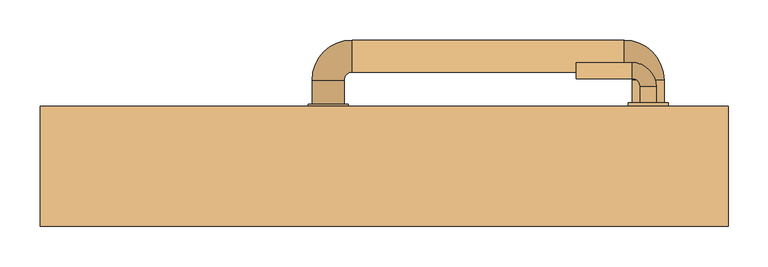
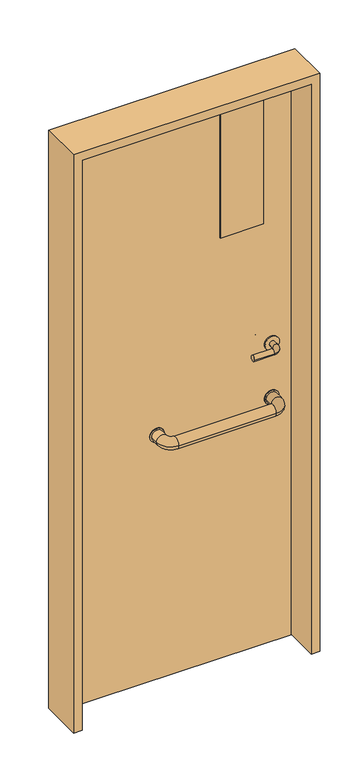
"""IFC4 building model written with IfcOpenShell, lengths in millimetres: door geometry, Porta banheiros : Porta banheiros."""

import ifcopenshell
import ifcopenshell.guid

model = None  # the IFC model being written
_history = None  # IfcOwnerHistory: only IFC2X3 demands one
_inside = {}  # id of a spatial element -> (the spatial element, [elements in it])
_under = {}  # id of a project, library or spatial element -> (it, [spatial elements below it])
_declared = {}  # id of a project -> (the project, [libraries it declares])
_typed = {}  # id of a type object -> (the type object, [elements of that type])
_made_of = {}  # id of a material, layer set ... -> (it, [elements and type objects made of it])


def new_model(schema):
    """Start an empty IFC model of exactly this schema.

    Asked for "IFC4X3", IfcOpenShell would pick the latest addendum, in which some entities
    have other attributes; the version numbers below select the first issue.
    IFC2X3 requires an IfcOwnerHistory on every rooted entity: one is made here for all.
    """
    global model, _history
    if schema == "IFC4X3":
        model = ifcopenshell.file(schema_version=(4, 3, 0, 0))
    else:
        model = ifcopenshell.file(schema=schema)
    _inside.clear()
    _under.clear()
    _declared.clear()
    _typed.clear()
    _made_of.clear()
    _history = None
    if model.schema == "IFC2X3":
        org = make("IfcOrganization", Name="unknown")
        user = make(
            "IfcPersonAndOrganization",
            ThePerson=make("IfcPerson", FamilyName="unknown"),
            TheOrganization=org,
        )
        app = make(
            "IfcApplication",
            ApplicationDeveloper=org,
            Version="unknown",
            ApplicationFullName="unknown",
            ApplicationIdentifier="unknown",
        )
        _history = make(
            "IfcOwnerHistory",
            OwningUser=user,
            OwningApplication=app,
            ChangeAction="ADDED",
            CreationDate=0,
        )
    return model


def make(cls, **values):
    """One entity of the class cls with the attributes given. An attribute that is None is left unset."""
    return model.create_entity(
        cls, **{name: value for name, value in values.items() if value is not None}
    )


def rooted(cls, **values):
    """An entity with a GlobalId (a new one), such as an element, a storey or a relation."""
    return make(cls, GlobalId=ifcopenshell.guid.new(), OwnerHistory=_history, **values)


def si_unit(unit_type, name, prefix=None):
    """IfcSIUnit, for example si_unit("LENGTHUNIT", "METRE", prefix="MILLI")."""
    return make("IfcSIUnit", UnitType=unit_type, Prefix=prefix, Name=name)


def assignment(units):
    """IfcUnitAssignment: the units of a project."""
    return None if units is None else make("IfcUnitAssignment", Units=units)


def point(xyz):
    """IfcCartesianPoint."""
    return None if xyz is None else make("IfcCartesianPoint", Coordinates=xyz)


def direction(xyz):
    """IfcDirection."""
    return None if xyz is None else make("IfcDirection", DirectionRatios=xyz)


def frame(location, z_axis=None, x_axis=None):
    """IfcAxis2Placement3D, a coordinate frame: its origin and axes. An axis left out is left unset."""
    return make(
        "IfcAxis2Placement3D",
        Location=point(location),
        Axis=direction(z_axis),
        RefDirection=direction(x_axis),
    )


def frame_2d(location, x_axis=None):
    """IfcAxis2Placement2D, a coordinate frame in the plane: its origin and x axis."""
    return make(
        "IfcAxis2Placement2D", Location=point(location), RefDirection=direction(x_axis)
    )


def origin():
    """The frame at (0, 0, 0) with its axes left unset."""
    return frame((0.0, 0.0, 0.0))


def origin_with_axes():
    """The frame at (0, 0, 0) with the z axis (0, 0, 1) and the x axis (1, 0, 0) written out."""
    return frame((0.0, 0.0, 0.0), z_axis=(0.0, 0.0, 1.0), x_axis=(1.0, 0.0, 0.0))


def place(relative_to, where):
    """IfcLocalPlacement: puts the frame where relative to a parent placement (None: the world)."""
    return make(
        "IfcLocalPlacement", PlacementRelTo=relative_to, RelativePlacement=where
    )


def context(
    kind, dimensions, precision=None, world=None, true_north=None, identifier=None
):
    """IfcGeometricRepresentationContext, for example the 3D "Model" context."""
    return make(
        "IfcGeometricRepresentationContext",
        ContextIdentifier=identifier,
        ContextType=kind,
        CoordinateSpaceDimension=dimensions,
        Precision=precision,
        WorldCoordinateSystem=world,
        TrueNorth=true_north,
    )


def project(units=None, contexts=None):
    """IfcProject with its units and contexts."""
    return rooted(
        "IfcProject",
        Name="project",
        RepresentationContexts=contexts,
        UnitsInContext=assignment(units),
    )


def spatial(cls, under=None, at=None, **own):
    """A site, building, storey or space (cls), placed at a placement, below another one or the project."""
    s = rooted(cls, ObjectPlacement=at, **own)
    if under is not None:
        _under.setdefault(under.id(), (under, []))[1].append(s)
    return s


def polyline(points):
    """IfcPolyline through the points."""
    return make("IfcPolyline", Points=[point(p) for p in points])


def circle_curve(where, radius):
    """IfcCircle in the frame where."""
    return make("IfcCircle", Position=where, Radius=radius)


def ellipse_curve(where, semi_axis1, semi_axis2):
    """IfcEllipse in the frame where."""
    return make(
        "IfcEllipse", Position=where, SemiAxis1=semi_axis1, SemiAxis2=semi_axis2
    )


def trimmed(basis, trim1, trim2, sense, master):
    """IfcTrimmedCurve: the piece of a basis curve between two trims."""
    return make(
        "IfcTrimmedCurve",
        BasisCurve=basis,
        Trim1=trim1,
        Trim2=trim2,
        SenseAgreement=sense,
        MasterRepresentation=master,
    )


def segment(curve, same_sense, transition):
    """IfcCompositeCurveSegment."""
    return make(
        "IfcCompositeCurveSegment",
        Transition=transition,
        SameSense=same_sense,
        ParentCurve=curve,
    )


def composite_curve(segments, self_intersect=None):
    """IfcCompositeCurve: segments joined end to end."""
    return make("IfcCompositeCurve", Segments=segments, SelfIntersect=self_intersect)


def outline(outer, holes=None, kind="AREA"):
    """IfcArbitraryClosedProfileDef: a profile drawn as a closed curve; with holes, ...WithVoids."""
    if holes is None:
        return make("IfcArbitraryClosedProfileDef", ProfileType=kind, OuterCurve=outer)
    return make(
        "IfcArbitraryProfileDefWithVoids",
        ProfileType=kind,
        OuterCurve=outer,
        InnerCurves=holes,
    )


def extrude(swept, where, along, depth):
    """IfcExtrudedAreaSolid: the profile swept, set in the frame where, extruded along a direction by depth."""
    return make(
        "IfcExtrudedAreaSolid",
        SweptArea=swept,
        Position=where,
        ExtrudedDirection=direction(along),
        Depth=depth,
    )


def faces_of(points, faces, orient=None, outer=None):
    """IfcFace entities. A face is a list of loops; a loop is a list of indices into points, from 0.

    orient and outer hold one flag for each loop. By default every Orientation is true, the
    first loop of a face is its IfcFaceOuterBound and the others are IfcFaceBound.
    """
    made = []
    for i, loops in enumerate(faces):
        bounds = []
        for j, loop in enumerate(loops):
            is_outer = j == 0 if outer is None else outer[i][j]
            bounds.append(
                make(
                    "IfcFaceOuterBound" if is_outer else "IfcFaceBound",
                    Bound=make("IfcPolyLoop", Polygon=[points[k] for k in loop]),
                    Orientation=True if orient is None else orient[i][j],
                )
            )
        made.append(make("IfcFace", Bounds=bounds))
    return made


def faceted_brep(points, faces, orient=None, outer=None, voids=None):
    """IfcFacetedBrep: a solid bounded by flat faces; with voids (closed shells), ...WithVoids."""
    shared = [point(p) for p in points]
    hull = make("IfcClosedShell", CfsFaces=faces_of(shared, faces, orient, outer))
    if voids is None:
        return make("IfcFacetedBrep", Outer=hull)
    return make(
        "IfcFacetedBrepWithVoids",
        Outer=hull,
        Voids=[
            make(cls, CfsFaces=faces_of(shared, fs, o, b)) for cls, fs, o, b in voids
        ],
    )


def shape(context_of_items, identifier, shape_type, items):
    """IfcShapeRepresentation: the items that make up one representation, for example the "Body"."""
    return make(
        "IfcShapeRepresentation",
        ContextOfItems=context_of_items,
        RepresentationIdentifier=identifier,
        RepresentationType=shape_type,
        Items=items,
    )


def source(mapping_origin, context_of_items, identifier, shape_type, items):
    """IfcRepresentationMap: a shape defined once, which mapped items show again and again."""
    return make(
        "IfcRepresentationMap",
        MappingOrigin=mapping_origin,
        MappedRepresentation=shape(context_of_items, identifier, shape_type, items),
    )


def transform(
    local_origin,
    x_axis=None,
    y_axis=None,
    z_axis=None,
    scale=None,
    scale2=None,
    scale3=None,
    uniform=True,
):
    """IfcCartesianTransformationOperator3D, or its non-uniform kind. x_axis, y_axis, z_axis: its Axis1, 2, 3."""
    if uniform:
        return make(
            "IfcCartesianTransformationOperator3D",
            Axis1=direction(x_axis),
            Axis2=direction(y_axis),
            LocalOrigin=point(local_origin),
            Scale=scale,
            Axis3=direction(z_axis),
        )
    return make(
        "IfcCartesianTransformationOperator3DnonUniform",
        Axis1=direction(x_axis),
        Axis2=direction(y_axis),
        LocalOrigin=point(local_origin),
        Scale=scale,
        Axis3=direction(z_axis),
        Scale2=scale2,
        Scale3=scale3,
    )


def mapped(mapping_source, mapping_target):
    """IfcMappedItem: shows the shape of a source again, moved by a transform."""
    return make(
        "IfcMappedItem", MappingSource=mapping_source, MappingTarget=mapping_target
    )


def made_of(thing, what):
    """Note that an element or type object is made of a material, layer set ...; save() writes the relation."""
    if what is not None:
        _made_of.setdefault(what.id(), (what, []))[1].append(thing)
    return thing


def element(
    cls,
    number,
    at=None,
    inside=None,
    cuts=None,
    type_object=None,
    material=None,
    context=None,
    identifier="Body",
    shape_type=None,
    held_by="IfcProductDefinitionShape",
    body=None,
    shapes=None,
    **own,
):
    """One element of the class cls, such as IfcWall. Its Tag is "e" and its number.

    at: its placement. inside: the storey or other place that contains it. cuts: it is an
    opening in that element (IfcRelVoidsElement). A single representation is given by context,
    identifier, shape_type and body (its items); several are given by shapes. held_by: the class
    of the entity that holds the representations. save() writes the other relations.
    """
    e = rooted(cls, Tag="e%d" % number, ObjectPlacement=at, **own)
    if body is not None:
        shapes = [shape(context, identifier, shape_type, body)]
    if shapes is not None:
        e.Representation = make(held_by, Representations=shapes)
    if inside is not None:
        _inside.setdefault(inside.id(), (inside, []))[1].append(e)
    if cuts is not None:
        rooted(
            "IfcRelVoidsElement", RelatingBuildingElement=cuts, RelatedOpeningElement=e
        )
    if type_object is not None:
        _typed.setdefault(type_object.id(), (type_object, []))[1].append(e)
    return made_of(e, material)


def aggregate(whole, parts):
    """IfcRelAggregates: a whole, such as a stair, and the parts it consists of."""
    return rooted("IfcRelAggregates", RelatingObject=whole, RelatedObjects=parts)


def save(model, path):
    """Write the relations noted so far, then the file.

    IfcRelAggregates (storeys below a building ...), IfcRelContainedInSpatialStructure (elements
    in a storey), IfcRelDefinesByType, IfcRelAssociatesMaterial and IfcRelDeclares: one each for
    every whole, place, type object, material and project.
    """
    for whole, parts in _under.values():
        aggregate(whole, parts)
    for where, things in _inside.values():
        rooted(
            "IfcRelContainedInSpatialStructure",
            RelatedElements=things,
            RelatingStructure=where,
        )
    for kind, things in _typed.values():
        rooted("IfcRelDefinesByType", RelatedObjects=things, RelatingType=kind)
    for what, things in _made_of.values():
        rooted("IfcRelAssociatesMaterial", RelatedObjects=things, RelatingMaterial=what)
    for by, libraries in _declared.values():
        rooted("IfcRelDeclares", RelatingContext=by, RelatedDefinitions=libraries)
    model.write(path)


def plane_surface(at):
    """IfcPlane: the flat surface through the origin of the frame at, square to its z axis."""
    return make("IfcPlane", Position=at)


def cylinder_surface(at, radius):
    """IfcCylindricalSurface: all points at the distance radius from the z axis of the frame at."""
    return make("IfcCylindricalSurface", Position=at, Radius=radius)


def revolved_surface(curve, axis_point, axis_direction):
    """IfcSurfaceOfRevolution: the curve turned about the line through axis_point along axis_direction."""
    return make(
        "IfcSurfaceOfRevolution",
        SweptCurve=make("IfcArbitraryOpenProfileDef", ProfileType="CURVE", Curve=curve),
        AxisPosition=make("IfcAxis1Placement", Location=point(axis_point), Axis=direction(axis_direction)),
    )


def advanced_brep(points, edges, surfaces, faces):
    """IfcAdvancedBrep: a solid bounded by faces that lie on surfaces and meet in shared edges.

    An edge is (start, end): straight between two places in points (the first is 0);
    or (start, end, curve); or (start, end, curve, False) where it runs against its curve.
    A face is (place in surfaces, loops), or (place, loops, False) where it looks against
    its surface's normal. A loop lists edges by number (the first is 1), with a minus sign
    where the edge is run from its end to its start. The first loop is the outer one.
    """
    corners = [point(p) for p in points]
    vertices = [make("IfcVertexPoint", VertexGeometry=c) for c in corners]
    made = []
    for start, end, *more in edges:
        made.append(
            make(
                "IfcEdgeCurve",
                EdgeStart=vertices[start],
                EdgeEnd=vertices[end],
                EdgeGeometry=more[0] if more else make("IfcPolyline", Points=[corners[start], corners[end]]),
                SameSense=more[1] if len(more) > 1 else True,
            )
        )
    hull = []
    for where, loops, *sense in faces:
        bounds = []
        for j, loop in enumerate(loops):
            ring = [make("IfcOrientedEdge", EdgeElement=made[abs(k) - 1], Orientation=k > 0) for k in loop]
            bounds.append(
                make(
                    "IfcFaceOuterBound" if j == 0 else "IfcFaceBound",
                    Bound=make("IfcEdgeLoop", EdgeList=ring),
                    Orientation=True,
                )
            )
        hull.append(make("IfcAdvancedFace", Bounds=bounds, FaceSurface=surfaces[where], SameSense=sense[0] if sense else True))
    return make("IfcAdvancedBrep", Outer=make("IfcClosedShell", CfsFaces=hull))


def door_062d9f42(model_context):
    return source(origin(), model_context, "Body", "SolidModel", [
        extrude(outline(composite_curve([segment(trimmed(circle_curve(frame_2d((900.0, -70.0)), 25.0), [point((900.0, -95.0))], [point((900.0, -45.0))], False, "CARTESIAN"), True, "CONTINUOUS"), segment(trimmed(circle_curve(frame_2d((900.0, -70.0)), 25.0), [point((900.0, -45.0))], [point((900.0, -95.0))], False, "CARTESIAN"), True, "CONTINUOUS")], self_intersect=False)), frame((0.0, 75.0, 0.0), z_axis=(0.0, 1.0, 0.0), x_axis=(0.0, 0.0, 1.0)), (0.0, 0.0, 1.0), 3.0),
        extrude(outline(composite_curve([segment(trimmed(circle_curve(frame_2d((900.0, 330.0)), 25.0), [point((900.0, 305.0))], [point((900.0, 355.0))], False, "CARTESIAN"), True, "CONTINUOUS"), segment(trimmed(circle_curve(frame_2d((900.0, 330.0)), 25.0), [point((900.0, 355.0))], [point((900.0, 305.0))], False, "CARTESIAN"), True, "CONTINUOUS")], self_intersect=False)), frame((0.0, 75.0, 0.0), z_axis=(0.0, 1.0, 0.0), x_axis=(0.0, 0.0, 1.0)), (0.0, 0.0, 1.0), 3.0),
        advanced_brep(
        [(310.0, 78.0, 900.0), (350.0, 78.0, 900.0), (350.0, 108.0, 900.0), (310.0, 108.0, 900.0), (300.0, 158.0, 900.0), (300.0, 118.0, 900.0), (-40.0, 158.0, 900.0), (-40.0, 118.0, 900.0), (-90.0, 108.0, 900.0), (-50.0, 108.0, 900.0), (-50.0, 78.0, 900.0), (-90.0, 78.0, 900.0)],
        [
            (0, 1, circle_curve(frame((330.0, 78.0, 900.0), z_axis=(0.0, -1.0, 0.0), x_axis=(1.0, 0.0, 0.0)), 20.0)),
            (1, 0, circle_curve(frame((330.0, 78.0, 900.0), z_axis=(0.0, -1.0, 0.0), x_axis=(1.0, 0.0, 0.0)), 20.0)),
            (1, 2),
            (2, 3, circle_curve(frame((330.0, 108.0, 900.0), z_axis=(0.0, -1.0, 0.0), x_axis=(1.0, 0.0, 0.0)), 20.0)),
            (3, 0),
            (3, 2, circle_curve(frame((330.0, 108.0, 900.0), z_axis=(0.0, -1.0, 0.0), x_axis=(1.0, 0.0, 0.0)), 20.0)),
            (4, 5, circle_curve(frame((300.0, 138.0, 900.0), z_axis=(1.0, 0.0, 0.0), x_axis=(0.0, 1.0, 0.0)), 20.0)),
            (5, 3, circle_curve(frame((300.0, 108.0, 900.0), z_axis=(0.0, 0.0, -1.0), x_axis=(1.0, 0.0, 0.0)), 10.0)),
            (2, 4, circle_curve(frame((300.0, 108.0, 900.0), z_axis=(0.0, 0.0, 1.0), x_axis=(1.0, 0.0, 0.0)), 50.0)),
            (5, 4, circle_curve(frame((300.0, 138.0, 900.0), z_axis=(1.0, 0.0, 0.0), x_axis=(0.0, 1.0, 0.0)), 20.0)),
            (4, 6),
            (6, 7, circle_curve(frame((-40.0, 138.0, 900.0), z_axis=(1.0, 0.0, 0.0), x_axis=(0.0, 1.0, 0.0)), 20.0)),
            (7, 5),
            (7, 6, circle_curve(frame((-40.0, 138.0, 900.0), z_axis=(1.0, 0.0, 0.0), x_axis=(0.0, 1.0, 0.0)), 20.0)),
            (8, 9, circle_curve(frame((-70.0, 108.0, 900.0), z_axis=(0.0, 1.0, 0.0), x_axis=(-1.0, 0.0, 0.0)), 20.0)),
            (9, 7, circle_curve(frame((-40.0, 108.0, 900.0), z_axis=(0.0, 0.0, -1.0), x_axis=(0.0, 1.0, 0.0)), 10.0)),
            (6, 8, circle_curve(frame((-40.0, 108.0, 900.0), z_axis=(0.0, 0.0, 1.0), x_axis=(0.0, 1.0, 0.0)), 50.0)),
            (9, 8, circle_curve(frame((-70.0, 108.0, 900.0), z_axis=(0.0, 1.0, 0.0), x_axis=(-1.0, 0.0, 0.0)), 20.0)),
            (10, 11, circle_curve(frame((-70.0, 78.0, 900.0), z_axis=(0.0, -1.0, 0.0), x_axis=(-1.0, 0.0, 0.0)), 20.0)),
            (11, 10, circle_curve(frame((-70.0, 78.0, 900.0), z_axis=(0.0, -1.0, 0.0), x_axis=(-1.0, 0.0, 0.0)), 20.0)),
            (8, 11),
            (10, 9),
        ],
        [
            plane_surface(frame((330.0, 78.0, 900.0), z_axis=(0.0, -1.0, 0.0), x_axis=(0.0, 0.0, 1.0))),
            cylinder_surface(frame((330.0, 78.0, 900.0), z_axis=(0.0, -1.0, 0.0), x_axis=(1.0, 0.0, 0.0)), 20.0),
            revolved_surface(trimmed(ellipse_curve(frame((330.0, 108.0, 900.0), z_axis=(0.0, 1.0, 0.0), x_axis=(1.0, 0.0, 0.0)), 20.0, 20.0), [point((310.0, 108.0, 900.0))], [point((350.0, 108.0, 900.0))], True, "CARTESIAN"), (300.0, 108.0, 900.0), (0.0, 0.0, -1.0)),
            revolved_surface(trimmed(ellipse_curve(frame((330.0, 108.0, 900.0), z_axis=(0.0, 1.0, 0.0), x_axis=(1.0, 0.0, 0.0)), 20.0, 20.0), [point((350.0, 108.0, 900.0))], [point((310.0, 108.0, 900.0))], True, "CARTESIAN"), (300.0, 108.0, 900.0), (0.0, 0.0, -1.0)),
            cylinder_surface(frame((300.0, 138.0, 900.0), z_axis=(1.0, 0.0, 0.0), x_axis=(0.0, 1.0, 0.0)), 20.0),
            revolved_surface(trimmed(ellipse_curve(frame((-40.0, 138.0, 900.0), z_axis=(-1.0, 0.0, 0.0), x_axis=(0.0, 1.0, 0.0)), 20.0, 20.0), [point((-40.0, 118.0, 900.0))], [point((-40.0, 158.0, 900.0))], True, "CARTESIAN"), (-40.0, 108.0, 900.0), (0.0, 0.0, -1.0)),
            revolved_surface(trimmed(ellipse_curve(frame((-40.0, 138.0, 900.0), z_axis=(-1.0, 0.0, 0.0), x_axis=(0.0, 1.0, 0.0)), 20.0, 20.0), [point((-40.0, 158.0, 900.0))], [point((-40.0, 118.0, 900.0))], True, "CARTESIAN"), (-40.0, 108.0, 900.0), (0.0, 0.0, -1.0)),
            plane_surface(frame((-70.0, 78.0, 900.0), z_axis=(0.0, -1.0, 0.0), x_axis=(0.0, 0.0, 1.0))),
            cylinder_surface(frame((-70.0, 108.0, 900.0), z_axis=(0.0, 1.0, 0.0), x_axis=(-1.0, 0.0, 0.0)), 20.0),
        ],
        [
            (0, [[1, 2]]),
            (1, [[3, 4, 5, -2]]),
            (1, [[-5, 6, -3, -1]]),
            (2, [[7, 8, -4, 9]]),
            (3, [[10, -9, -6, -8]]),
            (4, [[11, 12, 13, -7]]),
            (4, [[-13, 14, -11, -10]]),
            (5, [[15, 16, -12, 17]]),
            (6, [[18, -17, -14, -16]]),
            (7, [[19, 20]]),
            (8, [[21, -19, 22, -15]]),
            (8, [[-22, -20, -21, -18]]),
        ],
    ),
        extrude(outline(composite_curve([segment(trimmed(circle_curve(frame_2d((900.0, -70.0)), 25.0), [point((900.0, -95.0))], [point((900.0, -45.0))], False, "CARTESIAN"), True, "CONTINUOUS"), segment(trimmed(circle_curve(frame_2d((900.0, -70.0)), 25.0), [point((900.0, -45.0))], [point((900.0, -95.0))], False, "CARTESIAN"), True, "CONTINUOUS")], self_intersect=False)), frame((0.0, 42.0, 0.0), z_axis=(0.0, 1.0, 0.0), x_axis=(0.0, 0.0, 1.0)), (0.0, 0.0, 1.0), 3.0),
        extrude(outline(composite_curve([segment(trimmed(circle_curve(frame_2d((900.0, 330.0)), 25.0), [point((900.0, 305.0))], [point((900.0, 355.0))], False, "CARTESIAN"), True, "CONTINUOUS"), segment(trimmed(circle_curve(frame_2d((900.0, 330.0)), 25.0), [point((900.0, 355.0))], [point((900.0, 305.0))], False, "CARTESIAN"), True, "CONTINUOUS")], self_intersect=False)), frame((0.0, 42.0, 0.0), z_axis=(0.0, 1.0, 0.0), x_axis=(0.0, 0.0, 1.0)), (0.0, 0.0, 1.0), 3.0),
        advanced_brep(
        [(310.0, 42.0, 900.0), (350.0, 42.0, 900.0), (310.0, 12.0, 900.0), (350.0, 12.0, 900.0), (300.0, -38.0, 900.0), (300.0, 2.0, 900.0), (-40.0, 2.0, 900.0), (-40.0, -38.0, 900.0), (-90.0, 12.0, 900.0), (-50.0, 12.0, 900.0), (-50.0, 42.0, 900.0), (-90.0, 42.0, 900.0)],
        [
            (0, 1, circle_curve(frame((330.0, 42.0, 900.0), z_axis=(0.0, 1.0, 0.0), x_axis=(1.0, 0.0, 0.0)), 20.0)),
            (1, 0, circle_curve(frame((330.0, 42.0, 900.0), z_axis=(0.0, 1.0, 0.0), x_axis=(1.0, 0.0, 0.0)), 20.0)),
            (0, 2),
            (2, 3, circle_curve(frame((330.0, 12.0, 900.0), z_axis=(0.0, 1.0, 0.0), x_axis=(1.0, 0.0, 0.0)), 20.0)),
            (3, 1),
            (3, 2, circle_curve(frame((330.0, 12.0, 900.0), z_axis=(0.0, 1.0, 0.0), x_axis=(1.0, 0.0, 0.0)), 20.0)),
            (4, 3, circle_curve(frame((300.0, 12.0, 900.0), z_axis=(0.0, 0.0, 1.0), x_axis=(1.0, 0.0, 0.0)), 50.0)),
            (2, 5, circle_curve(frame((300.0, 12.0, 900.0), z_axis=(0.0, 0.0, -1.0), x_axis=(1.0, 0.0, 0.0)), 10.0)),
            (5, 4, circle_curve(frame((300.0, -18.0, 900.0), z_axis=(1.0, 0.0, 0.0), x_axis=(0.0, -1.0, 0.0)), 20.0)),
            (4, 5, circle_curve(frame((300.0, -18.0, 900.0), z_axis=(1.0, 0.0, 0.0), x_axis=(0.0, -1.0, 0.0)), 20.0)),
            (5, 6),
            (6, 7, circle_curve(frame((-40.0, -18.0, 900.0), z_axis=(1.0, 0.0, 0.0), x_axis=(0.0, -1.0, 0.0)), 20.0)),
            (7, 4),
            (7, 6, circle_curve(frame((-40.0, -18.0, 900.0), z_axis=(1.0, 0.0, 0.0), x_axis=(0.0, -1.0, 0.0)), 20.0)),
            (8, 7, circle_curve(frame((-40.0, 12.0, 900.0), z_axis=(0.0, 0.0, 1.0), x_axis=(0.0, -1.0, 0.0)), 50.0)),
            (6, 9, circle_curve(frame((-40.0, 12.0, 900.0), z_axis=(0.0, 0.0, -1.0), x_axis=(0.0, -1.0, 0.0)), 10.0)),
            (9, 8, circle_curve(frame((-70.0, 12.0, 900.0), z_axis=(0.0, -1.0, 0.0), x_axis=(-1.0, 0.0, 0.0)), 20.0)),
            (8, 9, circle_curve(frame((-70.0, 12.0, 900.0), z_axis=(0.0, -1.0, 0.0), x_axis=(-1.0, 0.0, 0.0)), 20.0)),
            (10, 11, circle_curve(frame((-70.0, 42.0, 900.0), z_axis=(0.0, 1.0, 0.0), x_axis=(-1.0, 0.0, 0.0)), 20.0)),
            (11, 10, circle_curve(frame((-70.0, 42.0, 900.0), z_axis=(0.0, 1.0, 0.0), x_axis=(-1.0, 0.0, 0.0)), 20.0)),
            (9, 10),
            (11, 8),
        ],
        [
            plane_surface(frame((330.0, 42.0, 900.0), z_axis=(0.0, 1.0, 0.0), x_axis=(0.0, 0.0, 1.0))),
            cylinder_surface(frame((330.0, 42.0, 900.0), z_axis=(0.0, 1.0, 0.0), x_axis=(1.0, 0.0, 0.0)), 20.0),
            revolved_surface(trimmed(ellipse_curve(frame((330.0, 12.0, 900.0), z_axis=(0.0, 1.0, 0.0), x_axis=(1.0, 0.0, 0.0)), 20.0, 20.0), [point((310.0, 12.0, 900.0))], [point((350.0, 12.0, 900.0))], True, "CARTESIAN"), (300.0, 12.0, 900.0), (0.0, 0.0, -1.0)),
            revolved_surface(trimmed(ellipse_curve(frame((330.0, 12.0, 900.0), z_axis=(0.0, 1.0, 0.0), x_axis=(1.0, 0.0, 0.0)), 20.0, 20.0), [point((350.0, 12.0, 900.0))], [point((310.0, 12.0, 900.0))], True, "CARTESIAN"), (300.0, 12.0, 900.0), (0.0, 0.0, -1.0)),
            cylinder_surface(frame((300.0, -18.0, 900.0), z_axis=(1.0, 0.0, 0.0), x_axis=(0.0, -1.0, 0.0)), 20.0),
            revolved_surface(trimmed(ellipse_curve(frame((-40.0, -18.0, 900.0), z_axis=(1.0, 0.0, 0.0), x_axis=(0.0, -1.0, 0.0)), 20.0, 20.0), [point((-40.0, 2.0, 900.0))], [point((-40.0, -38.0, 900.0))], True, "CARTESIAN"), (-40.0, 12.0, 900.0), (0.0, 0.0, -1.0)),
            revolved_surface(trimmed(ellipse_curve(frame((-40.0, -18.0, 900.0), z_axis=(1.0, 0.0, 0.0), x_axis=(0.0, -1.0, 0.0)), 20.0, 20.0), [point((-40.0, -38.0, 900.0))], [point((-40.0, 2.0, 900.0))], True, "CARTESIAN"), (-40.0, 12.0, 900.0), (0.0, 0.0, -1.0)),
            plane_surface(frame((-70.0, 42.0, 900.0), z_axis=(0.0, 1.0, 0.0), x_axis=(0.0, 0.0, 1.0))),
            cylinder_surface(frame((-70.0, 12.0, 900.0), z_axis=(0.0, -1.0, 0.0), x_axis=(-1.0, 0.0, 0.0)), 20.0),
        ],
        [
            (0, [[1, 2]]),
            (1, [[-1, 3, 4, 5]]),
            (1, [[-2, -5, 6, -3]]),
            (2, [[7, -4, 8, 9]]),
            (3, [[-8, -6, -7, 10]]),
            (4, [[-9, 11, 12, 13]]),
            (4, [[-10, -13, 14, -11]]),
            (5, [[15, -12, 16, 17]]),
            (6, [[-16, -14, -15, 18]]),
            (7, [[19, 20]]),
            (8, [[-17, 21, -20, 22]]),
            (8, [[-18, -22, -19, -21]]),
        ],
    ),
        extrude(outline(composite_curve([segment(trimmed(circle_curve(frame_2d((1100.0, 330.0)), 25.0), [point((1100.0, 305.0))], [point((1100.0, 355.0))], False, "CARTESIAN"), True, "CONTINUOUS"), segment(trimmed(circle_curve(frame_2d((1100.0, 330.0)), 25.0), [point((1100.0, 355.0))], [point((1100.0, 305.0))], False, "CARTESIAN"), True, "CONTINUOUS")], self_intersect=False)), frame((0.0, 75.0, 0.0), z_axis=(0.0, 1.0, 0.0), x_axis=(0.0, 0.0, 1.0)), (0.0, 0.0, 1.0), 5.0),
        advanced_brep(
        [(320.0, 80.0, 1100.0), (340.0, 80.0, 1100.0), (340.0, 100.0, 1100.0), (320.0, 100.0, 1100.0), (310.0, 130.0, 1100.0), (310.0, 110.0, 1100.0), (240.0, 110.0, 1100.0), (240.0, 130.0, 1100.0)],
        [
            (0, 1, circle_curve(frame((330.0, 80.0, 1100.0), z_axis=(0.0, -1.0, 0.0), x_axis=(1.0, 0.0, 0.0)), 10.0)),
            (1, 0, circle_curve(frame((330.0, 80.0, 1100.0), z_axis=(0.0, -1.0, 0.0), x_axis=(1.0, 0.0, 0.0)), 10.0)),
            (1, 2),
            (2, 3, circle_curve(frame((330.0, 100.0, 1100.0), z_axis=(0.0, -1.0, 0.0), x_axis=(1.0, 0.0, 0.0)), 10.0)),
            (3, 0),
            (3, 2, circle_curve(frame((330.0, 100.0, 1100.0), z_axis=(0.0, -1.0, 0.0), x_axis=(1.0, 0.0, 0.0)), 10.0)),
            (4, 5, circle_curve(frame((310.0, 120.0, 1100.0), z_axis=(1.0, 0.0, 0.0), x_axis=(0.0, 1.0, 0.0)), 10.0)),
            (5, 3, circle_curve(frame((310.0, 100.0, 1100.0), z_axis=(0.0, 0.0, -1.0), x_axis=(1.0, 0.0, 0.0)), 10.0)),
            (2, 4, circle_curve(frame((310.0, 100.0, 1100.0), z_axis=(0.0, 0.0, 1.0), x_axis=(1.0, 0.0, 0.0)), 30.0)),
            (5, 4, circle_curve(frame((310.0, 120.0, 1100.0), z_axis=(1.0, 0.0, 0.0), x_axis=(0.0, 1.0, 0.0)), 10.0)),
            (6, 7, circle_curve(frame((240.0, 120.0, 1100.0), z_axis=(-1.0, 0.0, 0.0), x_axis=(0.0, 1.0, 0.0)), 10.0)),
            (7, 6, circle_curve(frame((240.0, 120.0, 1100.0), z_axis=(-1.0, 0.0, 0.0), x_axis=(0.0, 1.0, 0.0)), 10.0)),
            (4, 7),
            (6, 5),
        ],
        [
            plane_surface(frame((330.0, 80.0, 1100.0), z_axis=(0.0, -1.0, 0.0), x_axis=(0.0, 0.0, 1.0))),
            cylinder_surface(frame((330.0, 80.0, 1100.0), z_axis=(0.0, -1.0, 0.0), x_axis=(1.0, 0.0, 0.0)), 10.0),
            revolved_surface(trimmed(ellipse_curve(frame((330.0, 100.0, 1100.0), z_axis=(0.0, 1.0, 0.0), x_axis=(1.0, 0.0, 0.0)), 10.0, 10.0), [point((320.0, 100.0, 1100.0))], [point((340.0, 100.0, 1100.0))], True, "CARTESIAN"), (310.0, 100.0, 1100.0), (0.0, 0.0, -1.0)),
            revolved_surface(trimmed(ellipse_curve(frame((330.0, 100.0, 1100.0), z_axis=(0.0, 1.0, 0.0), x_axis=(1.0, 0.0, 0.0)), 10.0, 10.0), [point((340.0, 100.0, 1100.0))], [point((320.0, 100.0, 1100.0))], True, "CARTESIAN"), (310.0, 100.0, 1100.0), (0.0, 0.0, -1.0)),
            plane_surface(frame((240.0, 120.0, 1100.0), z_axis=(-1.0, 0.0, 0.0), x_axis=(0.0, 0.0, 1.0))),
            cylinder_surface(frame((310.0, 120.0, 1100.0), z_axis=(1.0, 0.0, 0.0), x_axis=(0.0, 1.0, 0.0)), 10.0),
        ],
        [
            (0, [[1, 2]]),
            (1, [[3, 4, 5, -2]]),
            (1, [[-5, 6, -3, -1]]),
            (2, [[7, 8, -4, 9]]),
            (3, [[10, -9, -6, -8]]),
            (4, [[11, 12]]),
            (5, [[13, -11, 14, -7]]),
            (5, [[-14, -12, -13, -10]]),
        ],
    ),
        extrude(outline(composite_curve([segment(trimmed(circle_curve(frame_2d((1100.0, 330.0)), 25.0), [point((1100.0, 305.0))], [point((1100.0, 355.0))], False, "CARTESIAN"), True, "CONTINUOUS"), segment(trimmed(circle_curve(frame_2d((1100.0, 330.0)), 25.0), [point((1100.0, 355.0))], [point((1100.0, 305.0))], False, "CARTESIAN"), True, "CONTINUOUS")], self_intersect=False)), frame((0.0, 40.0, 0.0), z_axis=(0.0, 1.0, 0.0), x_axis=(0.0, 0.0, 1.0)), (0.0, 0.0, 1.0), 5.0),
        advanced_brep(
        [(320.0, 40.0, 1100.0), (340.0, 40.0, 1100.0), (320.0, 20.0, 1100.0), (340.0, 20.0, 1100.0), (310.0, -10.0, 1100.0), (310.0, 10.0, 1100.0), (240.0, 10.0, 1100.0), (240.0, -10.0, 1100.0)],
        [
            (0, 1, circle_curve(frame((330.0, 40.0, 1100.0), z_axis=(0.0, 1.0, 0.0), x_axis=(1.0, 0.0, 0.0)), 10.0)),
            (1, 0, circle_curve(frame((330.0, 40.0, 1100.0), z_axis=(0.0, 1.0, 0.0), x_axis=(1.0, 0.0, 0.0)), 10.0)),
            (0, 2),
            (2, 3, circle_curve(frame((330.0, 20.0, 1100.0), z_axis=(0.0, 1.0, 0.0), x_axis=(1.0, 0.0, 0.0)), 10.0)),
            (3, 1),
            (3, 2, circle_curve(frame((330.0, 20.0, 1100.0), z_axis=(0.0, 1.0, 0.0), x_axis=(1.0, 0.0, 0.0)), 10.0)),
            (4, 3, circle_curve(frame((310.0, 20.0, 1100.0), z_axis=(0.0, 0.0, 1.0), x_axis=(1.0, 0.0, 0.0)), 30.0)),
            (2, 5, circle_curve(frame((310.0, 20.0, 1100.0), z_axis=(0.0, 0.0, -1.0), x_axis=(1.0, 0.0, 0.0)), 10.0)),
            (5, 4, circle_curve(frame((310.0, 0.0, 1100.0), z_axis=(1.0, 0.0, 0.0), x_axis=(0.0, -1.0, 0.0)), 10.0)),
            (4, 5, circle_curve(frame((310.0, 0.0, 1100.0), z_axis=(1.0, 0.0, 0.0), x_axis=(0.0, -1.0, 0.0)), 10.0)),
            (6, 7, circle_curve(frame((240.0, 0.0, 1100.0), z_axis=(-1.0, 0.0, 0.0), x_axis=(0.0, -1.0, 0.0)), 10.0)),
            (7, 6, circle_curve(frame((240.0, 0.0, 1100.0), z_axis=(-1.0, 0.0, 0.0), x_axis=(0.0, -1.0, 0.0)), 10.0)),
            (5, 6),
            (7, 4),
        ],
        [
            plane_surface(frame((330.0, 40.0, 1100.0), z_axis=(0.0, 1.0, 0.0), x_axis=(0.0, 0.0, 1.0))),
            cylinder_surface(frame((330.0, 40.0, 1100.0), z_axis=(0.0, 1.0, 0.0), x_axis=(1.0, 0.0, 0.0)), 10.0),
            revolved_surface(trimmed(ellipse_curve(frame((330.0, 20.0, 1100.0), z_axis=(0.0, 1.0, 0.0), x_axis=(1.0, 0.0, 0.0)), 10.0, 10.0), [point((320.0, 20.0, 1100.0))], [point((340.0, 20.0, 1100.0))], True, "CARTESIAN"), (310.0, 20.0, 1100.0), (0.0, 0.0, -1.0)),
            revolved_surface(trimmed(ellipse_curve(frame((330.0, 20.0, 1100.0), z_axis=(0.0, 1.0, 0.0), x_axis=(1.0, 0.0, 0.0)), 10.0, 10.0), [point((340.0, 20.0, 1100.0))], [point((320.0, 20.0, 1100.0))], True, "CARTESIAN"), (310.0, 20.0, 1100.0), (0.0, 0.0, -1.0)),
            plane_surface(frame((240.0, 0.0, 1100.0), z_axis=(-1.0, 0.0, 0.0), x_axis=(0.0, 0.0, 1.0))),
            cylinder_surface(frame((310.0, 0.0, 1100.0), z_axis=(1.0, 0.0, 0.0), x_axis=(0.0, -1.0, 0.0)), 10.0),
        ],
        [
            (0, [[1, 2]]),
            (1, [[-1, 3, 4, 5]]),
            (1, [[-2, -5, 6, -3]]),
            (2, [[7, -4, 8, 9]]),
            (3, [[-8, -6, -7, 10]]),
            (4, [[11, 12]]),
            (5, [[-9, 13, -12, 14]]),
            (5, [[-10, -14, -11, -13]]),
        ],
    ),
        faceted_brep([(-430.0, -75.0, 0.0), (-430.0, 75.0, 0.0), (-410.0, 75.0, 0.0), (-410.0, 45.0, 0.0), (-400.0, 45.0, 0.0), (-400.0, -75.0, 0.0), (-400.0, -75.0, 2100.0), (400.0, -75.0, 2100.0), (400.0, -75.0, 0.0), (430.0, -75.0, 0.0), (430.0, -75.0, 2130.0), (-430.0, -75.0, 2130.0), (-400.0, 45.0, 2100.0), (-410.0, 45.0, 2110.0), (410.0, 45.0, 2110.0), (410.0, 45.0, 0.0), (400.0, 45.0, 0.0), (400.0, 45.0, 2100.0), (-410.0, 75.0, 2110.0), (-430.0, 75.0, 2130.0), (430.0, 75.0, 2130.0), (430.0, 75.0, 0.0), (410.0, 75.0, 0.0), (410.0, 75.0, 2110.0)], [[[0, 1, 2, 3, 4, 5]], [[5, 6, 7, 8, 9, 10, 11, 0]], [[4, 12, 6, 5]], [[3, 13, 14, 15, 16, 17, 12, 4]], [[2, 18, 13, 3]], [[1, 19, 20, 21, 22, 23, 18, 2]], [[0, 11, 19, 1]], [[17, 16, 8, 7]], [[9, 8, 16, 15, 22, 21]], [[23, 22, 15, 14]], [[10, 9, 21, 20]], [[12, 17, 7, 6]], [[18, 23, 14, 13]], [[11, 10, 20, 19]]]),
        extrude(outline(polyline([(410.0, 75.0), (410.0, 45.0), (-410.0, 45.0), (-410.0, 75.0), (410.0, 75.0)])), origin_with_axes(), (0.0, 0.0, 1.0), 2110.0),
        extrude(outline(polyline([(150.0, 42.0), (150.0, 45.0), (300.0, 45.0), (300.0, 42.0), (150.0, 42.0)])), frame((0.0, 0.0, 1550.0), z_axis=(0.0, 0.0, 1.0), x_axis=(1.0, 0.0, 0.0)), (0.0, 0.0, 1.0), 550.0),
    ])


if __name__ == "__main__":
    model = new_model("IFC4")
    model_context = context("Model", 3, world=origin())
    ifc_project = project(units=[si_unit("LENGTHUNIT", "METRE", prefix="MILLI")], contexts=[model_context])
    site = spatial("IfcSite", under=ifc_project)
    building = spatial("IfcBuilding", under=site)
    placement = place(None, origin())
    door_shape = door_062d9f42(model_context)
    element("IfcDoor", 1, ObjectType="Porta banheiros : Porta banheiros", at=placement, inside=building, context=model_context, shape_type="MappedRepresentation", body=[
        mapped(door_shape, transform((0.0, 0.0, 0.0), x_axis=(1.0, 0.0, 0.0), y_axis=(0.0, 1.0, 0.0), z_axis=(0.0, 0.0, 1.0))),
    ])
    save(model, "model.ifc")
